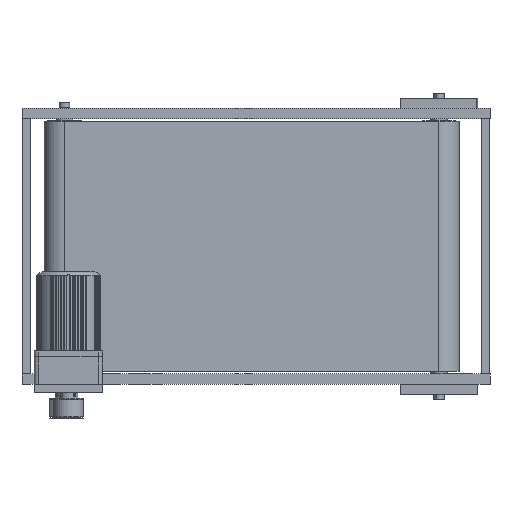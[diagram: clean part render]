
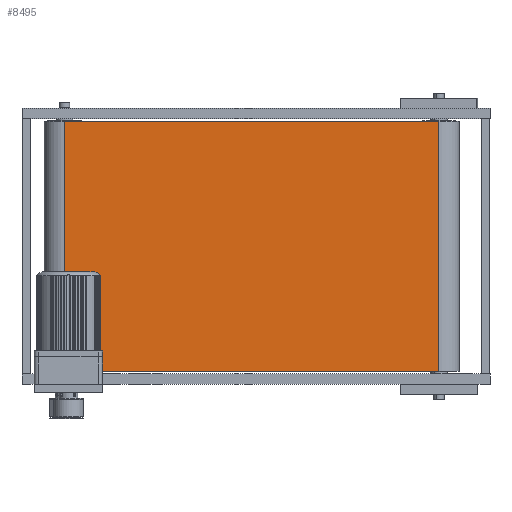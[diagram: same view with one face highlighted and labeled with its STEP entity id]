
A CAD part, front view. The second image highlights one B-rep face of the part: STEP entity #8495.
In plain terms, the highlighted planar face has unit normal (0, -1, 0).
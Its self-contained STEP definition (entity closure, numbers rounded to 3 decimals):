
#2259=PLANE('',#34117);
#4212=LINE('',#57443,#6470);
#4213=LINE('',#57447,#6471);
#4218=LINE('',#57466,#6476);
#4222=LINE('',#57477,#6480);
#6470=VECTOR('',#38874,1.);
#6471=VECTOR('',#38879,1.);
#6476=VECTOR('',#38896,1.);
#6480=VECTOR('',#38908,1.);
#8495=ADVANCED_FACE('',(#10176),#2259,.F.);
#10176=FACE_OUTER_BOUND('',#11968,.T.);
#11968=EDGE_LOOP('',(#19155,#19156,#19157,#19158));
#19155=ORIENTED_EDGE('',*,*,#29078,.T.);
#19156=ORIENTED_EDGE('',*,*,#29084,.F.);
#19157=ORIENTED_EDGE('',*,*,#29068,.F.);
#19158=ORIENTED_EDGE('',*,*,#29066,.T.);
#25102=VERTEX_POINT('',#57438);
#25104=VERTEX_POINT('',#57442);
#25106=VERTEX_POINT('',#57448);
#25113=VERTEX_POINT('',#57465);
#29066=EDGE_CURVE('',#25102,#25104,#4212,.T.);
#29068=EDGE_CURVE('',#25102,#25106,#4213,.T.);
#29078=EDGE_CURVE('',#25104,#25113,#4218,.T.);
#29084=EDGE_CURVE('',#25106,#25113,#4222,.T.);
#34117=AXIS2_PLACEMENT_3D('',#57478,#38909,#38910);
#38874=DIRECTION('',(0.,0.,-1.));
#38879=DIRECTION('',(1.,0.,0.));
#38896=DIRECTION('',(1.,0.,0.));
#38908=DIRECTION('',(0.,0.,-1.));
#38909=DIRECTION('',(0.,1.,0.));
#38910=DIRECTION('',(1.,0.,0.));
#57438=CARTESIAN_POINT('',(0.,-24.,294.));
#57442=CARTESIAN_POINT('',(0.,-24.,0.));
#57443=CARTESIAN_POINT('',(0.,-24.,294.));
#57447=CARTESIAN_POINT('',(0.,-24.,294.));
#57448=CARTESIAN_POINT('',(440.,-24.,294.));
#57465=CARTESIAN_POINT('',(440.,-24.,0.));
#57466=CARTESIAN_POINT('',(0.,-24.,0.));
#57477=CARTESIAN_POINT('',(440.,-24.,294.));
#57478=CARTESIAN_POINT('',(0.,-24.,294.));
